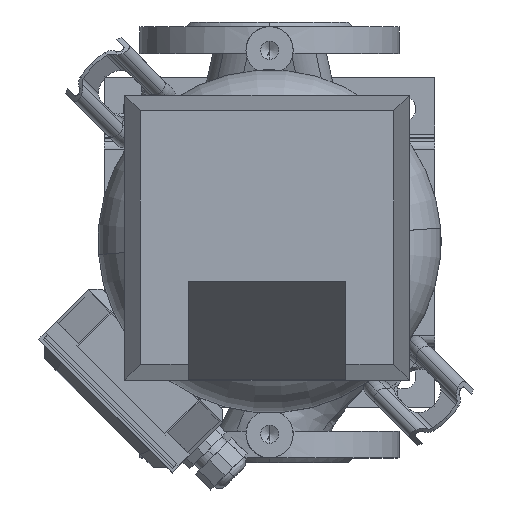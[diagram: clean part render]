
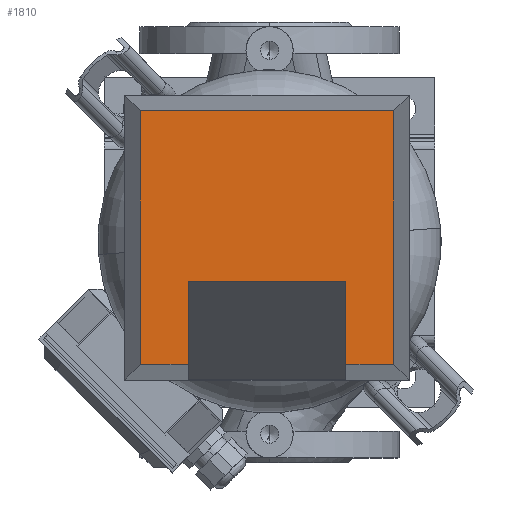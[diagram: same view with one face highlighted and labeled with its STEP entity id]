
A CAD part, top view. The second image highlights one B-rep face of the part: STEP entity #1810.
In plain terms, the highlighted planar face has unit normal (0, 0, 1) as drawn and (0, 1, 0) by its records, which use the part's own axes.
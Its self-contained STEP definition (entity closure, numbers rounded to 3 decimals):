
#1810=ADVANCED_FACE('',(#3352),#3353,.T.);
#1820=EDGE_CURVE('',#3365,#3368,#3369,.T.);
#3352=FACE_OUTER_BOUND('',#8706,.T.);
#3353=PLANE('',#8707);
#3365=VERTEX_POINT('',#8720);
#3368=VERTEX_POINT('',#8725);
#3369=LINE('',#8726,#8727);
#8706=EDGE_LOOP('',(#14693,#14694,#14695,#14696,#14697,#14698,#14699,#14700));
#8707=AXIS2_PLACEMENT_3D('',#14701,#14702,#14703);
#8720=CARTESIAN_POINT('',(50.0,114.0,118.64));
#8725=CARTESIAN_POINT('',(50.0,114.0,171.0));
#8726=CARTESIAN_POINT('',(50.0,114.0,90.179));
#8727=VECTOR('',#14729,1.0);
#14693=ORIENTED_EDGE('',*,*,#1820,.T.);
#14694=ORIENTED_EDGE('',*,*,#19016,.F.);
#14695=ORIENTED_EDGE('',*,*,#19024,.F.);
#14696=ORIENTED_EDGE('',*,*,#19026,.F.);
#14697=ORIENTED_EDGE('',*,*,#19018,.F.);
#14698=ORIENTED_EDGE('',*,*,#19012,.F.);
#14699=ORIENTED_EDGE('',*,*,#19005,.T.);
#14700=ORIENTED_EDGE('',*,*,#19008,.T.);
#14701=CARTESIAN_POINT('',(0.0,114.0,0.0));
#14702=DIRECTION('',(0.0,1.0,-0.0));
#14703=DIRECTION('',(-1.0,0.0,0.0));
#14729=DIRECTION('',(0.0,0.0,1.0));
#19005=EDGE_CURVE('',#33009,#33011,#33013,.T.);
#19008=EDGE_CURVE('',#33011,#3365,#33016,.T.);
#19012=EDGE_CURVE('',#33009,#33020,#33021,.T.);
#19016=EDGE_CURVE('',#33026,#3368,#33028,.T.);
#19018=EDGE_CURVE('',#33020,#33030,#33031,.T.);
#19024=EDGE_CURVE('',#33036,#33026,#33038,.T.);
#19026=EDGE_CURVE('',#33030,#33036,#33040,.T.);
#33009=VERTEX_POINT('',#39719);
#33011=VERTEX_POINT('',#39722);
#33013=LINE('',#39725,#39726);
#33016=LINE('',#39730,#39731);
#33020=VERTEX_POINT('',#39736);
#33021=LINE('',#39737,#39738);
#33026=VERTEX_POINT('',#39745);
#33028=LINE('',#39748,#39749);
#33030=VERTEX_POINT('',#39751);
#33031=LINE('',#39752,#39753);
#33036=VERTEX_POINT('',#39761);
#33038=LINE('',#39764,#39765);
#33040=LINE('',#39767,#39768);
#39719=CARTESIAN_POINT('',(-50.0,114.0,171.0));
#39722=CARTESIAN_POINT('',(-50.0,114.0,118.64));
#39725=CARTESIAN_POINT('',(-50.0,114.0,90.179));
#39726=VECTOR('',#47401,1.0);
#39730=CARTESIAN_POINT('',(25.0,114.0,118.64));
#39731=VECTOR('',#47403,1.0);
#39736=CARTESIAN_POINT('',(-80.5,114.0,171.0));
#39737=CARTESIAN_POINT('',(45.25,114.0,171.0));
#39738=VECTOR('',#47405,1.0);
#39745=CARTESIAN_POINT('',(80.5,114.0,171.0));
#39748=CARTESIAN_POINT('',(45.25,114.0,171.0));
#39749=VECTOR('',#47409,1.0);
#39751=CARTESIAN_POINT('',(-80.5,114.0,10.0));
#39752=CARTESIAN_POINT('',(-80.5,114.0,0.0));
#39753=VECTOR('',#47410,1.0);
#39761=CARTESIAN_POINT('',(80.5,114.0,10.0));
#39764=CARTESIAN_POINT('',(80.5,114.0,0.0));
#39765=VECTOR('',#47415,1.0);
#39767=CARTESIAN_POINT('',(45.25,114.0,10.0));
#39768=VECTOR('',#47416,1.0);
#47401=DIRECTION('',(-0.0,0.0,-1.0));
#47403=DIRECTION('',(1.0,-0.0,0.0));
#47405=DIRECTION('',(-1.0,0.0,-0.0));
#47409=DIRECTION('',(-1.0,0.0,-0.0));
#47410=DIRECTION('',(-0.0,-0.0,-1.0));
#47415=DIRECTION('',(-0.0,0.0,1.0));
#47416=DIRECTION('',(1.0,-0.0,-0.0));
